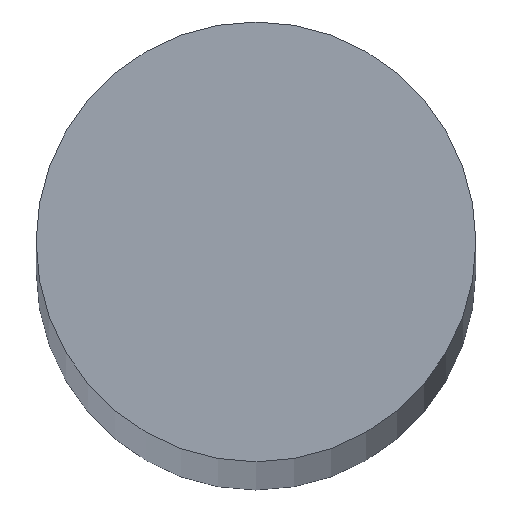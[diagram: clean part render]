
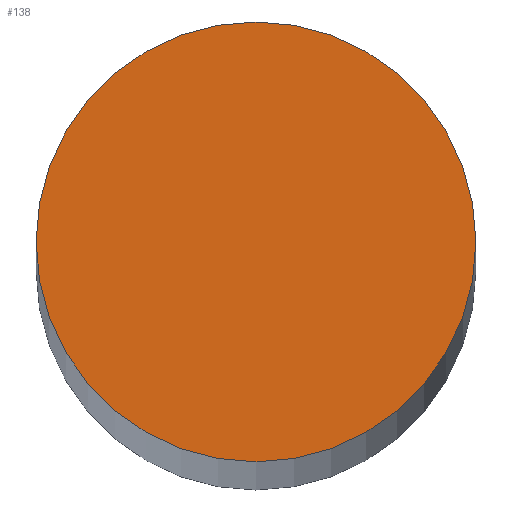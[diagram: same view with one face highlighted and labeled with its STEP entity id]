
A CAD part, top view. The second image highlights one B-rep face of the part: STEP entity #138.
In plain terms, the highlighted planar face has unit normal (0, 0, 1).
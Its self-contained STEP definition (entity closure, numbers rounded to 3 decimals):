
#10 = ORIENTED_EDGE ( 'NONE', *, *, #116, .T. ) ;
#11 = ORIENTED_EDGE ( 'NONE', *, *, #125, .T. ) ;
#21 = EDGE_LOOP ( 'NONE', ( #11, #10 ) ) ;
#27 = CIRCLE ( 'NONE', #120, 6. ) ;
#29 = FACE_OUTER_BOUND ( 'NONE', #21, .T. ) ;
#33 = CIRCLE ( 'NONE', #124, 6. ) ;
#52 = VERTEX_POINT ( 'NONE', #55 ) ;
#55 = CARTESIAN_POINT ( 'NONE',  ( 6., 0., 220.5 ) ) ;
#56 = VERTEX_POINT ( 'NONE', #65 ) ;
#65 = CARTESIAN_POINT ( 'NONE',  ( -6., 0., 220.5 ) ) ;
#67 = CARTESIAN_POINT ( 'NONE',  ( 0., 0., 220.5 ) ) ;
#68 = DIRECTION ( 'NONE',  ( 0., 0., 1. ) ) ;
#69 = DIRECTION ( 'NONE',  ( 1., 0., 0. ) ) ;
#72 = CARTESIAN_POINT ( 'NONE',  ( 0., 0., 220.5 ) ) ;
#79 = DIRECTION ( 'NONE',  ( 0., 0., 1. ) ) ;
#80 = DIRECTION ( 'NONE',  ( 1., 0., 0. ) ) ;
#90 = CARTESIAN_POINT ( 'NONE',  ( 0., 0., 220.5 ) ) ;
#91 = PLANE ( 'NONE',  #129 ) ;
#93 = DIRECTION ( 'NONE',  ( 0., 0., 1. ) ) ;
#94 = DIRECTION ( 'NONE',  ( 1., 0., 0. ) ) ;
#116 = EDGE_CURVE ( 'NONE', #52, #56, #27, .T. ) ;
#120 = AXIS2_PLACEMENT_3D ( 'NONE', #67, #68, #69 ) ;
#124 = AXIS2_PLACEMENT_3D ( 'NONE', #72, #79, #80 ) ;
#125 = EDGE_CURVE ( 'NONE', #56, #52, #33, .T. ) ;
#129 = AXIS2_PLACEMENT_3D ( 'NONE', #90, #93, #94 ) ;
#138 = ADVANCED_FACE ( 'NONE', ( #29 ), #91, .T. ) ;
